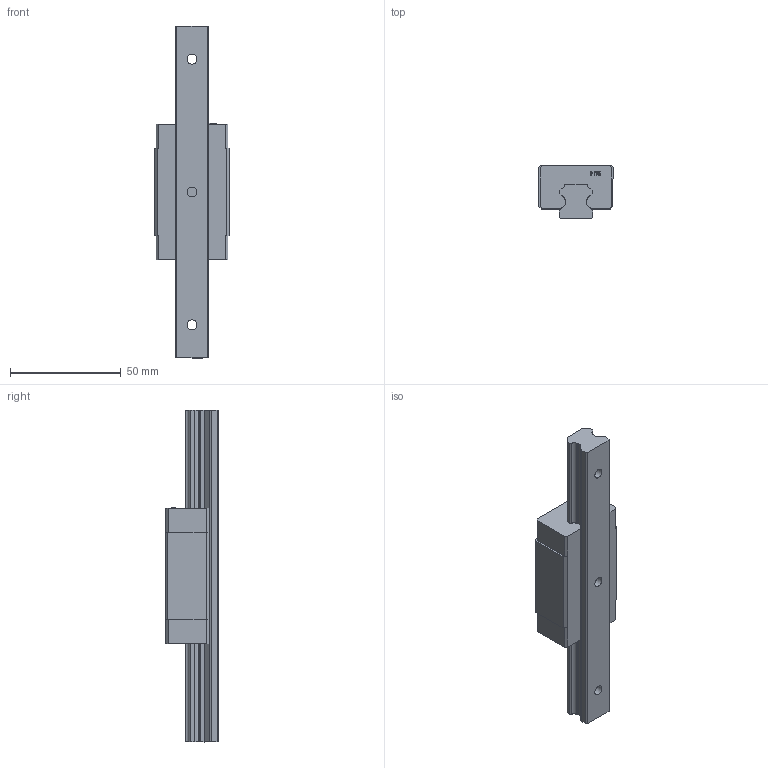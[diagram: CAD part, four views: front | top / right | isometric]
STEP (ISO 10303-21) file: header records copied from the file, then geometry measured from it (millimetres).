
FILE_DESCRIPTION(/* description */ (''),/* implementation_level */ '2;1');
FILE_NAME(/* name */ 'HGL15CA.stp',/* time_stamp */ '2021-04-14T20:10:51+08:00',/* author */ (''),/* organization */ (''),/* preprocessor_version */ 'ST-DEVELOPER v15',/* originating_system */ 'SIEMENS PLM Software NX 8.5',/* authorisation */ '');
FILE_SCHEMA (('CONFIG_CONTROL_DESIGN'));
Length unit declared in the file: millimetre
Products named in the file (1): _model1
Bounding box: 34 x 24 x 150 mm (x, y, z)
Volume: 59193.7 mm3; surface area: 19469.5 mm2
Topology: 2 solids, 2 shells, 187 faces, 520 edges, 347 vertices
Faces by surface type: plane 151, cylinder 36
Full cylindrical faces by diameter (mm): 4 x4, 4.5 x3, 7.5 x3
Entity records: 5933 total; most frequent: CARTESIAN_POINT 1035, ORIENTED_EDGE 1010, DIRECTION 953, EDGE_CURVE 505, LINE 433, VECTOR 433, VERTEX_POINT 342, AXIS2_PLACEMENT_3D 260
